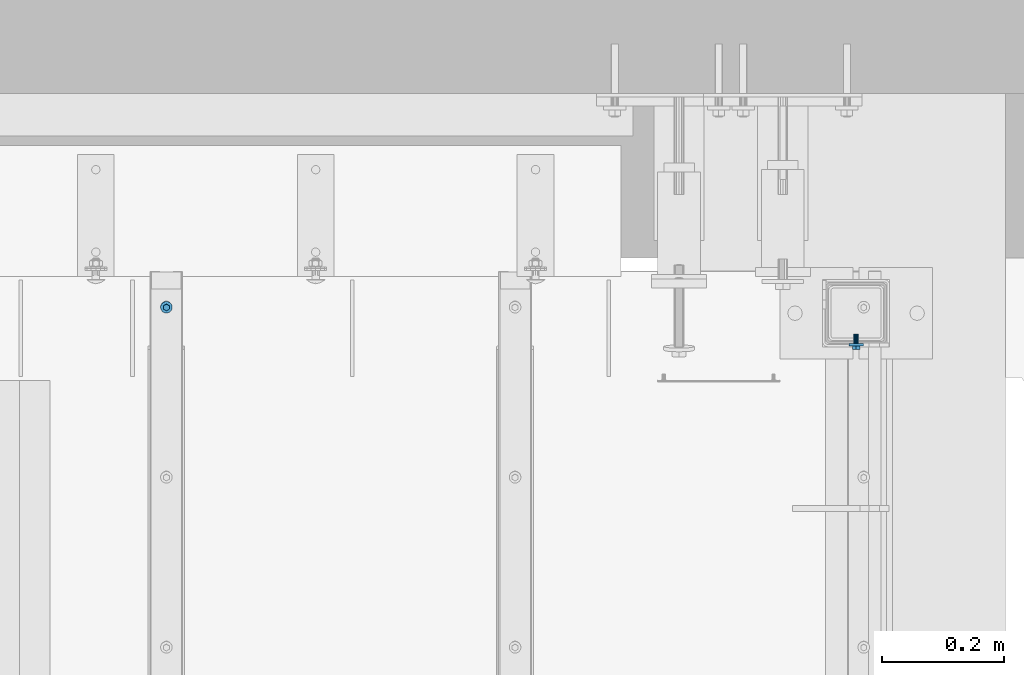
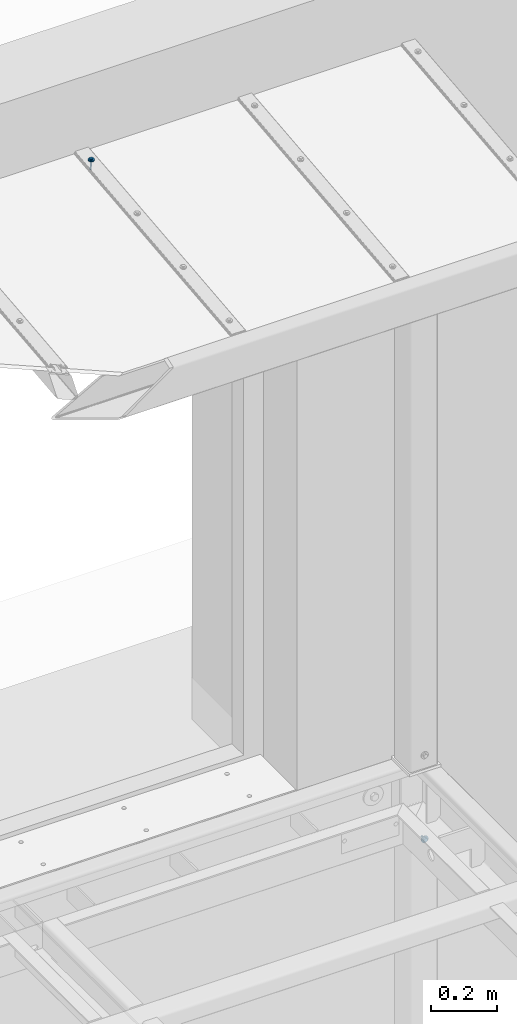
# One storey, part 61 of 116: 2 mechanical fasteners.
"""IFC2X3 building model written with IfcOpenShell, lengths in millimetres."""

from ifc_helpers import new_model, entity, si_unit, converted_unit, origin_with_axes, place, context, project, spatial, faceted_brep, element, save


model = new_model("IFC2X3")

# Units and contexts
model_context = context("Model", 3, precision=1e-09, world=origin_with_axes())
ifc_project = project(units=[si_unit("LENGTHUNIT", "METRE", prefix="MILLI"), si_unit("AREAUNIT", "SQUARE_METRE"), si_unit("VOLUMEUNIT", "CUBIC_METRE"), converted_unit("PLANEANGLEUNIT", "DEGREE", entity("IfcPlaneAngleMeasure", 0.01745329), si_unit("PLANEANGLEUNIT", "RADIAN"), dimensions=[0, 0, 0, 0, 0, 0, 0])], contexts=[model_context])

# Site, building, storey
site_placement = place(None, origin_with_axes())
site = spatial("IfcSite", under=ifc_project, at=site_placement, Name="Site", CompositionType="ELEMENT")
building_placement = place(site_placement, origin_with_axes())
building = spatial("IfcBuilding", under=site, at=building_placement, Name="Struktur 1", CompositionType="ELEMENT")
storey_placement = place(building_placement, origin_with_axes())
storey = spatial("IfcBuildingStorey", under=building, at=storey_placement, Name="Default Storey", CompositionType="ELEMENT", Elevation=0.0)

# Mechanical fasteners
mechanical_fastener_1_placement = place(None, origin_with_axes())
element("IfcMechanicalFastener", 1, at=mechanical_fastener_1_placement, inside=storey, ObjectType="-", NominalDiameter=8.0, NominalLength=20.0, context=model_context, shape_type="Brep", body=[
    faceted_brep([(58179.049134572, 11912.358883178, -255.0), (58179.049134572, 11910.358883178, -255.0), (58178.818557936, 11910.358883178, -257.341083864), (58178.818557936, 11912.358883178, -257.341083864), (58178.135688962, 11910.358883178, -259.592201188), (58178.135688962, 11912.358883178, -259.592201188), (58177.026769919, 11910.358883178, -261.666842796), (58177.026769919, 11912.358883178, -261.666842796), (58175.534415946, 11910.358883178, -263.485281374), (58175.534415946, 11912.358883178, -263.485281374), (58173.715977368, 11910.358883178, -264.977635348), (58173.715977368, 11912.358883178, -264.977635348), (58171.64133576, 11910.358883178, -266.08655439), (58171.64133576, 11912.358883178, -266.08655439), (58169.390218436, 11910.358883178, -266.769423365), (58169.390218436, 11912.358883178, -266.769423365), (58167.049134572, 11910.358883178, -267.0), (58167.049134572, 11912.358883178, -267.0), (58164.708050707, 11910.358883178, -266.769423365), (58164.708050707, 11912.358883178, -266.769423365), (58162.456933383, 11910.358883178, -266.08655439), (58162.456933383, 11912.358883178, -266.08655439), (58160.382291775, 11910.358883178, -264.977635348), (58160.382291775, 11912.358883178, -264.977635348), (58158.563853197, 11910.358883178, -263.485281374), (58158.563853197, 11912.358883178, -263.485281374), (58157.071499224, 11910.358883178, -261.666842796), (58157.071499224, 11912.358883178, -261.666842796), (58155.962580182, 11910.358883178, -259.592201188), (58155.962580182, 11912.358883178, -259.592201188), (58155.279711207, 11910.358883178, -257.341083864), (58155.279711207, 11912.358883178, -257.341083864), (58155.049134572, 11910.358883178, -255.0), (58155.049134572, 11912.358883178, -255.0), (58155.279711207, 11910.358883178, -252.658916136), (58155.279711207, 11912.358883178, -252.658916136), (58155.962580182, 11910.358883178, -250.407798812), (58155.962580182, 11912.358883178, -250.407798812), (58157.071499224, 11910.358883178, -248.333157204), (58157.071499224, 11912.358883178, -248.333157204), (58158.563853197, 11910.358883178, -246.514718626), (58158.563853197, 11912.358883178, -246.514718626), (58160.382291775, 11910.358883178, -245.022364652), (58160.382291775, 11912.358883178, -245.022364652), (58162.456933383, 11910.358883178, -243.91344561), (58162.456933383, 11912.358883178, -243.91344561), (58164.708050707, 11910.358883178, -243.230576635), (58164.708050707, 11912.358883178, -243.230576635), (58167.049134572, 11910.358883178, -243.0), (58167.049134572, 11912.358883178, -243.0), (58169.390218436, 11910.358883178, -243.230576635), (58169.390218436, 11912.358883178, -243.230576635), (58171.64133576, 11910.358883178, -243.91344561), (58171.64133576, 11912.358883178, -243.91344561), (58173.715977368, 11910.358883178, -245.022364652), (58173.715977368, 11912.358883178, -245.022364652), (58175.534415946, 11910.358883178, -246.514718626), (58175.534415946, 11912.358883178, -246.514718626), (58177.026769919, 11910.358883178, -248.333157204), (58177.026769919, 11912.358883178, -248.333157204), (58178.135688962, 11910.358883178, -250.407798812), (58178.135688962, 11912.358883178, -250.407798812), (58178.818557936, 11910.358883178, -252.658916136), (58178.818557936, 11912.358883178, -252.658916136)], [[[0, 1, 2, 3]], [[3, 2, 4, 5]], [[5, 4, 6, 7]], [[7, 6, 8, 9]], [[9, 8, 10, 11]], [[11, 10, 12, 13]], [[13, 12, 14, 15]], [[15, 14, 16, 17]], [[17, 16, 18, 19]], [[19, 18, 20, 21]], [[21, 20, 22, 23]], [[23, 22, 24, 25]], [[25, 24, 26, 27]], [[27, 26, 28, 29]], [[29, 28, 30, 31]], [[31, 30, 32, 33]], [[33, 32, 34, 35]], [[35, 34, 36, 37]], [[37, 36, 38, 39]], [[39, 38, 40, 41]], [[41, 40, 42, 43]], [[43, 42, 44, 45]], [[45, 44, 46, 47]], [[47, 46, 48, 49]], [[49, 48, 50, 51]], [[51, 50, 52, 53]], [[53, 52, 54, 55]], [[55, 54, 56, 57]], [[57, 56, 58, 59]], [[59, 58, 60, 61]], [[61, 60, 62, 63]], [[63, 62, 1, 0]], [[2, 1, 62, 60, 58, 56, 54, 52, 50, 48, 46, 44, 42, 40, 38, 36, 34, 32, 30, 28, 26, 24, 22, 20, 18, 16, 14, 12, 10, 8, 6, 4]], [[63, 0, 3, 5, 7, 9, 11, 13, 15, 17, 19, 21, 23, 25, 27, 29, 31, 33, 35, 37, 39, 41, 43, 45, 47, 49, 51, 53, 55, 57, 59, 61]]]),
    faceted_brep([(58179.049134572, 11910.358883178, -255.0), (58179.049134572, 11908.358883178, -255.0), (58178.818557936, 11908.358883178, -257.341083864), (58178.818557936, 11910.358883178, -257.341083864), (58178.135688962, 11908.358883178, -259.592201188), (58178.135688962, 11910.358883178, -259.592201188), (58177.026769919, 11908.358883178, -261.666842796), (58177.026769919, 11910.358883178, -261.666842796), (58175.534415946, 11908.358883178, -263.485281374), (58175.534415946, 11910.358883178, -263.485281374), (58173.715977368, 11908.358883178, -264.977635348), (58173.715977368, 11910.358883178, -264.977635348), (58171.64133576, 11908.358883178, -266.08655439), (58171.64133576, 11910.358883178, -266.08655439), (58169.390218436, 11908.358883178, -266.769423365), (58169.390218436, 11910.358883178, -266.769423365), (58167.049134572, 11908.358883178, -267.0), (58167.049134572, 11910.358883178, -267.0), (58164.708050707, 11908.358883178, -266.769423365), (58164.708050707, 11910.358883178, -266.769423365), (58162.456933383, 11908.358883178, -266.08655439), (58162.456933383, 11910.358883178, -266.08655439), (58160.382291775, 11908.358883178, -264.977635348), (58160.382291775, 11910.358883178, -264.977635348), (58158.563853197, 11908.358883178, -263.485281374), (58158.563853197, 11910.358883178, -263.485281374), (58157.071499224, 11908.358883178, -261.666842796), (58157.071499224, 11910.358883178, -261.666842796), (58155.962580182, 11908.358883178, -259.592201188), (58155.962580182, 11910.358883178, -259.592201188), (58155.279711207, 11908.358883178, -257.341083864), (58155.279711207, 11910.358883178, -257.341083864), (58155.049134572, 11908.358883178, -255.0), (58155.049134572, 11910.358883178, -255.0), (58155.279711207, 11908.358883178, -252.658916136), (58155.279711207, 11910.358883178, -252.658916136), (58155.962580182, 11908.358883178, -250.407798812), (58155.962580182, 11910.358883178, -250.407798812), (58157.071499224, 11908.358883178, -248.333157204), (58157.071499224, 11910.358883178, -248.333157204), (58158.563853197, 11908.358883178, -246.514718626), (58158.563853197, 11910.358883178, -246.514718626), (58160.382291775, 11908.358883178, -245.022364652), (58160.382291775, 11910.358883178, -245.022364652), (58162.456933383, 11908.358883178, -243.91344561), (58162.456933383, 11910.358883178, -243.91344561), (58164.708050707, 11908.358883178, -243.230576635), (58164.708050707, 11910.358883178, -243.230576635), (58167.049134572, 11908.358883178, -243.0), (58167.049134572, 11910.358883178, -243.0), (58169.390218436, 11908.358883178, -243.230576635), (58169.390218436, 11910.358883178, -243.230576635), (58171.64133576, 11908.358883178, -243.91344561), (58171.64133576, 11910.358883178, -243.91344561), (58173.715977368, 11908.358883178, -245.022364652), (58173.715977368, 11910.358883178, -245.022364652), (58175.534415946, 11908.358883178, -246.514718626), (58175.534415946, 11910.358883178, -246.514718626), (58177.026769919, 11908.358883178, -248.333157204), (58177.026769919, 11910.358883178, -248.333157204), (58178.135688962, 11908.358883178, -250.407798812), (58178.135688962, 11910.358883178, -250.407798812), (58178.818557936, 11908.358883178, -252.658916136), (58178.818557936, 11910.358883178, -252.658916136)], [[[0, 1, 2, 3]], [[3, 2, 4, 5]], [[5, 4, 6, 7]], [[7, 6, 8, 9]], [[9, 8, 10, 11]], [[11, 10, 12, 13]], [[13, 12, 14, 15]], [[15, 14, 16, 17]], [[17, 16, 18, 19]], [[19, 18, 20, 21]], [[21, 20, 22, 23]], [[23, 22, 24, 25]], [[25, 24, 26, 27]], [[27, 26, 28, 29]], [[29, 28, 30, 31]], [[31, 30, 32, 33]], [[33, 32, 34, 35]], [[35, 34, 36, 37]], [[37, 36, 38, 39]], [[39, 38, 40, 41]], [[41, 40, 42, 43]], [[43, 42, 44, 45]], [[45, 44, 46, 47]], [[47, 46, 48, 49]], [[49, 48, 50, 51]], [[51, 50, 52, 53]], [[53, 52, 54, 55]], [[55, 54, 56, 57]], [[57, 56, 58, 59]], [[59, 58, 60, 61]], [[61, 60, 62, 63]], [[63, 62, 1, 0]], [[2, 1, 62, 60, 58, 56, 54, 52, 50, 48, 46, 44, 42, 40, 38, 36, 34, 32, 30, 28, 26, 24, 22, 20, 18, 16, 14, 12, 10, 8, 6, 4]], [[63, 0, 3, 5, 7, 9, 11, 13, 15, 17, 19, 21, 23, 25, 27, 29, 31, 33, 35, 37, 39, 41, 43, 45, 47, 49, 51, 53, 55, 57, 59, 61]]]),
    faceted_brep([(58160.822411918, 11903.058883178, -258.595), (58160.822411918, 11908.358883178, -258.595), (58167.049134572, 11908.358883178, -262.19), (58167.049134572, 11903.058883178, -262.19), (58173.275857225, 11908.358883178, -258.595), (58173.275857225, 11903.058883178, -258.595), (58173.275857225, 11908.358883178, -251.405), (58173.275857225, 11903.058883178, -251.405), (58167.049134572, 11908.358883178, -247.81), (58167.049134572, 11903.058883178, -247.81), (58160.822411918, 11908.358883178, -251.405), (58160.822411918, 11903.058883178, -251.405)], [[[0, 1, 2, 3]], [[3, 2, 4, 5]], [[5, 4, 6, 7]], [[7, 6, 8, 9]], [[9, 8, 10, 11]], [[11, 10, 1, 0]], [[3, 5, 7, 9, 11, 0]], [[2, 1, 10, 8, 6, 4]]]),
    faceted_brep([(58171.049134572, 11921.358883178, -255.0), (58171.049134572, 11912.358883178, -255.0), (58170.744652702, 11912.358883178, -256.530733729), (58170.744652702, 11921.358883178, -256.530733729), (58169.877561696, 11912.358883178, -257.828427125), (58169.877561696, 11921.358883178, -257.828427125), (58168.579868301, 11912.358883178, -258.69551813), (58168.579868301, 11921.358883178, -258.69551813), (58167.049134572, 11912.358883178, -259.0), (58167.049134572, 11921.358883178, -259.0), (58165.518400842, 11912.358883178, -258.69551813), (58165.518400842, 11921.358883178, -258.69551813), (58164.220707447, 11912.358883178, -257.828427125), (58164.220707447, 11921.358883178, -257.828427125), (58163.353616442, 11912.358883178, -256.530733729), (58163.353616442, 11921.358883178, -256.530733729), (58163.049134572, 11912.358883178, -255.0), (58163.049134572, 11921.358883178, -255.0), (58163.353616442, 11912.358883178, -253.46926627), (58163.353616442, 11921.358883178, -253.46926627), (58164.220707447, 11912.358883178, -252.171572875), (58164.220707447, 11921.358883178, -252.171572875), (58165.518400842, 11912.358883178, -251.30448187), (58165.518400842, 11921.358883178, -251.30448187), (58167.049134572, 11912.358883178, -251.0), (58167.049134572, 11921.358883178, -251.0), (58168.579868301, 11912.358883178, -251.30448187), (58168.579868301, 11921.358883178, -251.30448187), (58169.877561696, 11912.358883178, -252.171572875), (58169.877561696, 11921.358883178, -252.171572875), (58170.744652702, 11912.358883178, -253.46926627), (58170.744652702, 11921.358883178, -253.46926627)], [[[0, 1, 2, 3]], [[3, 2, 4, 5]], [[5, 4, 6, 7]], [[7, 6, 8, 9]], [[9, 8, 10, 11]], [[11, 10, 12, 13]], [[13, 12, 14, 15]], [[15, 14, 16, 17]], [[17, 16, 18, 19]], [[19, 18, 20, 21]], [[21, 20, 22, 23]], [[23, 22, 24, 25]], [[25, 24, 26, 27]], [[27, 26, 28, 29]], [[29, 28, 30, 31]], [[31, 30, 1, 0]], [[2, 1, 30, 28, 26, 24, 22, 20, 18, 16, 14, 12, 10, 8, 6, 4]], [[31, 0, 3, 5, 7, 9, 11, 13, 15, 17, 19, 21, 23, 25, 27, 29]]]),
    faceted_brep([(58171.049134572, 11928.358883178, -255.0), (58171.049134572, 11921.358883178, -255.0), (58170.744652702, 11921.358883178, -256.530733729), (58170.744652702, 11928.358883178, -256.530733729), (58169.877561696, 11921.358883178, -257.828427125), (58169.877561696, 11928.358883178, -257.828427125), (58168.579868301, 11921.358883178, -258.69551813), (58168.579868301, 11928.358883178, -258.69551813), (58167.049134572, 11921.358883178, -259.0), (58167.049134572, 11928.358883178, -259.0), (58165.518400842, 11921.358883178, -258.69551813), (58165.518400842, 11928.358883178, -258.69551813), (58164.220707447, 11921.358883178, -257.828427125), (58164.220707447, 11928.358883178, -257.828427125), (58163.353616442, 11921.358883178, -256.530733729), (58163.353616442, 11928.358883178, -256.530733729), (58163.049134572, 11921.358883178, -255.0), (58163.049134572, 11928.358883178, -255.0), (58163.353616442, 11921.358883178, -253.46926627), (58163.353616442, 11928.358883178, -253.46926627), (58164.220707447, 11921.358883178, -252.171572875), (58164.220707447, 11928.358883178, -252.171572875), (58165.518400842, 11921.358883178, -251.30448187), (58165.518400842, 11928.358883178, -251.30448187), (58167.049134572, 11921.358883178, -251.0), (58167.049134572, 11928.358883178, -251.0), (58168.579868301, 11921.358883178, -251.30448187), (58168.579868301, 11928.358883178, -251.30448187), (58169.877561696, 11921.358883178, -252.171572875), (58169.877561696, 11928.358883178, -252.171572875), (58170.744652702, 11921.358883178, -253.46926627), (58170.744652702, 11928.358883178, -253.46926627)], [[[0, 1, 2, 3]], [[3, 2, 4, 5]], [[5, 4, 6, 7]], [[7, 6, 8, 9]], [[9, 8, 10, 11]], [[11, 10, 12, 13]], [[13, 12, 14, 15]], [[15, 14, 16, 17]], [[17, 16, 18, 19]], [[19, 18, 20, 21]], [[21, 20, 22, 23]], [[23, 22, 24, 25]], [[25, 24, 26, 27]], [[27, 26, 28, 29]], [[29, 28, 30, 31]], [[31, 30, 1, 0]], [[2, 1, 30, 28, 26, 24, 22, 20, 18, 16, 14, 12, 10, 8, 6, 4]], [[31, 0, 3, 5, 7, 9, 11, 13, 15, 17, 19, 21, 23, 25, 27, 29]]]),
])
mechanical_fastener_2_placement = place(None, origin_with_axes())
element("IfcMechanicalFastener", 2, at=mechanical_fastener_2_placement, inside=storey, ObjectType="-", NominalDiameter=6.0, NominalLength=40.0, context=model_context, shape_type="Brep", body=[
    faceted_brep([(57028.049134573, 11972.018174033, 2614.908351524), (57028.049134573, 11972.436287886, 2610.930263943), (57028.231674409, 11970.593082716, 2610.736535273), (57028.231674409, 11970.174968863, 2614.714622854), (57028.772279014, 11968.820710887, 2610.550251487), (57028.772279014, 11968.402597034, 2614.528339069), (57029.650173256, 11967.187283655, 2610.378571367), (57029.650173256, 11966.769169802, 2614.356658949), (57030.831620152, 11965.755572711, 2610.228092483), (57030.831620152, 11965.337458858, 2614.206180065), (57032.27121736, 11964.580597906, 2610.104597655), (57032.27121736, 11964.162484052, 2614.082685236), (57033.913641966, 11963.70751286, 2610.012832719), (57033.913641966, 11963.289399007, 2613.9909203), (57035.695776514, 11963.169869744, 2609.95632415), (57035.695776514, 11962.751755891, 2613.934411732), (57037.549134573, 11962.98832988, 2609.937243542), (57037.549134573, 11962.570216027, 2613.915331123), (57039.402492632, 11963.169869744, 2609.95632415), (57039.402492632, 11962.751755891, 2613.934411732), (57041.184627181, 11963.70751286, 2610.012832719), (57041.184627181, 11963.289399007, 2613.9909203), (57042.827051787, 11964.580597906, 2610.104597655), (57042.827051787, 11964.162484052, 2614.082685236), (57044.266648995, 11965.755572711, 2610.228092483), (57044.266648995, 11965.337458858, 2614.206180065), (57045.44809589, 11967.187283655, 2610.378571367), (57045.44809589, 11966.769169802, 2614.356658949), (57046.325990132, 11968.820710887, 2610.550251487), (57046.325990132, 11968.402597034, 2614.528339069), (57046.866594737, 11970.593082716, 2610.736535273), (57046.866594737, 11970.174968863, 2614.714622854), (57047.049134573, 11972.436287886, 2610.930263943), (57047.049134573, 11972.018174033, 2614.908351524), (57046.866594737, 11974.279493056, 2611.123992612), (57046.866594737, 11973.861379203, 2615.102080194), (57046.325990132, 11976.051864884, 2611.310276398), (57046.325990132, 11975.633751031, 2615.28836398), (57045.44809589, 11977.685292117, 2611.481956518), (57045.44809589, 11977.267178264, 2615.4600441), (57044.266648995, 11979.11700306, 2611.632435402), (57044.266648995, 11978.698889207, 2615.610522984), (57042.827051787, 11980.291977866, 2611.755930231), (57042.827051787, 11979.873864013, 2615.734017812), (57041.184627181, 11981.165062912, 2611.847695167), (57041.184627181, 11980.746949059, 2615.825782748), (57039.402492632, 11981.702706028, 2611.904203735), (57039.402492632, 11981.284592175, 2615.882291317), (57037.549134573, 11981.884245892, 2611.923284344), (57037.549134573, 11981.466132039, 2615.901371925), (57035.695776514, 11981.702706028, 2611.904203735), (57035.695776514, 11981.284592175, 2615.882291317), (57033.913641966, 11981.165062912, 2611.847695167), (57033.913641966, 11980.746949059, 2615.825782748), (57032.27121736, 11980.291977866, 2611.755930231), (57032.27121736, 11979.873864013, 2615.734017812), (57030.831620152, 11979.11700306, 2611.632435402), (57030.831620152, 11978.698889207, 2615.610522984), (57029.650173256, 11977.685292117, 2611.481956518), (57029.650173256, 11977.267178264, 2615.4600441), (57028.772279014, 11976.051864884, 2611.310276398), (57028.772279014, 11975.633751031, 2615.28836398), (57028.231674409, 11974.279493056, 2611.123992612), (57028.231674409, 11973.861379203, 2615.102080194)], [[[0, 1, 2, 3]], [[3, 2, 4, 5]], [[5, 4, 6, 7]], [[7, 6, 8, 9]], [[9, 8, 10, 11]], [[11, 10, 12, 13]], [[13, 12, 14, 15]], [[15, 14, 16, 17]], [[17, 16, 18, 19]], [[19, 18, 20, 21]], [[21, 20, 22, 23]], [[23, 22, 24, 25]], [[25, 24, 26, 27]], [[27, 26, 28, 29]], [[29, 28, 30, 31]], [[31, 30, 32, 33]], [[33, 32, 34, 35]], [[35, 34, 36, 37]], [[37, 36, 38, 39]], [[39, 38, 40, 41]], [[41, 40, 42, 43]], [[43, 42, 44, 45]], [[45, 44, 46, 47]], [[47, 46, 48, 49]], [[49, 48, 50, 51]], [[51, 50, 52, 53]], [[53, 52, 54, 55]], [[55, 54, 56, 57]], [[57, 56, 58, 59]], [[59, 58, 60, 61]], [[61, 60, 62, 63]], [[63, 62, 1, 0]], [[0, 3, 5, 7, 9, 11, 13, 15, 17, 19, 21, 23, 25, 27, 29, 31, 33, 35, 37, 39, 41, 43, 45, 47, 49, 51, 53, 55, 57, 59, 61, 63]], [[1, 62, 60, 58, 56, 54, 52, 50, 48, 46, 44, 42, 40, 38, 36, 34, 32, 30, 28, 26, 24, 22, 20, 18, 16, 14, 12, 10, 8, 6, 4, 2]]]),
    faceted_brep([(57042.333924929, 11969.270807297, 2614.619591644), (57042.333924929, 11968.852693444, 2618.597679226), (57037.549134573, 11966.105326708, 2618.308919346), (57037.549134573, 11966.523440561, 2614.330831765), (57032.764344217, 11968.852693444, 2618.597679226), (57032.764344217, 11969.270807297, 2614.619591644), (57032.764344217, 11974.347426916, 2619.175198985), (57032.764344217, 11974.765540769, 2615.197111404), (57037.549134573, 11977.094793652, 2619.463958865), (57037.549134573, 11977.512907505, 2615.485871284), (57042.333924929, 11974.347426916, 2619.175198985), (57042.333924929, 11974.765540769, 2615.197111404)], [[[0, 1, 2, 3]], [[3, 2, 4, 5]], [[5, 4, 6, 7]], [[7, 6, 8, 9]], [[9, 8, 10, 11]], [[11, 10, 1, 0]], [[4, 2, 1, 10, 8, 6]], [[0, 3, 5, 7, 9, 11]]]),
    faceted_brep([(57034.549134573, 11972.436287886, 2610.930263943), (57034.549134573, 11975.78119871, 2579.105563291), (57034.777495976, 11974.639437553, 2578.985559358), (57034.777495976, 11971.294526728, 2610.810260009), (57035.42781423, 11973.671499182, 2578.883824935), (57035.42781423, 11970.326588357, 2610.708525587), (57036.401084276, 11973.024743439, 2578.815848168), (57036.401084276, 11969.679832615, 2610.640548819), (57037.549134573, 11972.797633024, 2578.791977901), (57037.549134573, 11969.4527222, 2610.616678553), (57038.69718487, 11973.024743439, 2578.815848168), (57038.69718487, 11969.679832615, 2610.640548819), (57039.670454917, 11973.671499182, 2578.883824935), (57039.670454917, 11970.326588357, 2610.708525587), (57040.320773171, 11974.639437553, 2578.985559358), (57040.320773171, 11971.294526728, 2610.810260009), (57040.549134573, 11975.78119871, 2579.105563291), (57040.549134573, 11972.436287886, 2610.930263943), (57040.320773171, 11976.922959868, 2579.225567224), (57040.320773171, 11973.578049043, 2611.050267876), (57039.670454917, 11977.890898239, 2579.327301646), (57039.670454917, 11974.545987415, 2611.152002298), (57038.69718487, 11978.537653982, 2579.395278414), (57038.69718487, 11975.192743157, 2611.219979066), (57037.549134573, 11978.764764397, 2579.419148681), (57037.549134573, 11975.419853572, 2611.243849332), (57036.401084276, 11978.537653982, 2579.395278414), (57036.401084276, 11975.192743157, 2611.219979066), (57035.42781423, 11977.890898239, 2579.327301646), (57035.42781423, 11974.545987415, 2611.152002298), (57034.777495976, 11976.922959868, 2579.225567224), (57034.777495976, 11973.578049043, 2611.050267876)], [[[0, 1, 2, 3]], [[3, 2, 4, 5]], [[5, 4, 6, 7]], [[7, 6, 8, 9]], [[9, 8, 10, 11]], [[11, 10, 12, 13]], [[13, 12, 14, 15]], [[15, 14, 16, 17]], [[17, 16, 18, 19]], [[19, 18, 20, 21]], [[21, 20, 22, 23]], [[23, 22, 24, 25]], [[25, 24, 26, 27]], [[27, 26, 28, 29]], [[29, 28, 30, 31]], [[31, 30, 1, 0]], [[0, 3, 5, 7, 9, 11, 13, 15, 17, 19, 21, 23, 25, 27, 29, 31]], [[1, 30, 28, 26, 24, 22, 20, 18, 16, 14, 12, 10, 8, 6, 4, 2]]]),
    faceted_brep([(57034.549134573, 11975.78119871, 2579.105563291), (57034.549134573, 11976.199312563, 2575.127475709), (57034.777495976, 11975.057551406, 2575.007471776), (57034.777495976, 11974.639437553, 2578.985559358), (57035.42781423, 11974.089613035, 2574.905737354), (57035.42781423, 11973.671499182, 2578.883824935), (57036.401084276, 11973.442857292, 2574.837760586), (57036.401084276, 11973.024743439, 2578.815848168), (57037.549134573, 11973.215746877, 2574.81389032), (57037.549134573, 11972.797633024, 2578.791977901), (57038.69718487, 11973.442857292, 2574.837760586), (57038.69718487, 11973.024743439, 2578.815848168), (57039.670454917, 11974.089613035, 2574.905737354), (57039.670454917, 11973.671499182, 2578.883824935), (57040.320773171, 11975.057551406, 2575.007471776), (57040.320773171, 11974.639437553, 2578.985559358), (57040.549134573, 11976.199312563, 2575.127475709), (57040.549134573, 11975.78119871, 2579.105563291), (57040.320773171, 11977.341073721, 2575.247479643), (57040.320773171, 11976.922959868, 2579.225567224), (57039.670454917, 11978.309012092, 2575.349214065), (57039.670454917, 11977.890898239, 2579.327301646), (57038.69718487, 11978.955767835, 2575.417190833), (57038.69718487, 11978.537653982, 2579.395278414), (57037.549134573, 11979.18287825, 2575.441061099), (57037.549134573, 11978.764764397, 2579.419148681), (57036.401084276, 11978.955767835, 2575.417190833), (57036.401084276, 11978.537653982, 2579.395278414), (57035.42781423, 11978.309012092, 2575.349214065), (57035.42781423, 11977.890898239, 2579.327301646), (57034.777495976, 11977.341073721, 2575.247479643), (57034.777495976, 11976.922959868, 2579.225567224)], [[[0, 1, 2, 3]], [[3, 2, 4, 5]], [[5, 4, 6, 7]], [[7, 6, 8, 9]], [[9, 8, 10, 11]], [[11, 10, 12, 13]], [[13, 12, 14, 15]], [[15, 14, 16, 17]], [[17, 16, 18, 19]], [[19, 18, 20, 21]], [[21, 20, 22, 23]], [[23, 22, 24, 25]], [[25, 24, 26, 27]], [[27, 26, 28, 29]], [[29, 28, 30, 31]], [[31, 30, 1, 0]], [[0, 3, 5, 7, 9, 11, 13, 15, 17, 19, 21, 23, 25, 27, 29, 31]], [[1, 30, 28, 26, 24, 22, 20, 18, 16, 14, 12, 10, 8, 6, 4, 2]]]),
])

save(model, "model.ifc")
